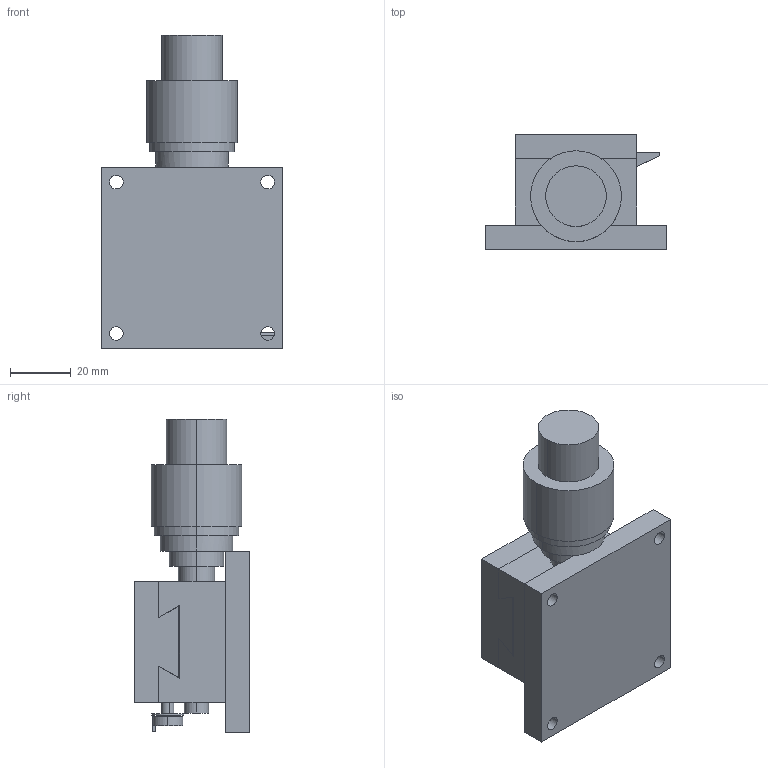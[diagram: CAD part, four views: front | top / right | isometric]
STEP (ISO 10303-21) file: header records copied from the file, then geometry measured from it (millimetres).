
FILE_DESCRIPTION (( 'STEP AP203' ), '1' );
FILE_NAME ('LS-412S.STEP', '2008-03-03T08:23:01', ( '' ), ( '' ), 'SwSTEP 2.0', 'SolidWorks 2007', '' );
FILE_SCHEMA (( 'CONFIG_CONTROL_DESIGN' ));
Length unit declared in the file: millimetre
Products named in the file (3): LS-412S; LS-412S-2; LS-412S-1
Assembly tree (2 placements, depth 2):
  LS-412S
    LS-412S-1
    LS-412S-2
Bounding box: 60 x 38 x 103.5 mm (x, y, z)
Volume: 100114.8 mm3; surface area: 26027.6 mm2
Topology: 2 solids, 2 shells, 112 faces, 274 edges, 181 vertices
Faces by surface type: plane 59, cylinder 53
Entity records: 3680 total; most frequent: DIRECTION 615, CARTESIAN_POINT 578, ORIENTED_EDGE 548, EDGE_CURVE 274, AXIS2_PLACEMENT_3D 226, VERTEX_POINT 181, VECTOR 163, LINE 163
